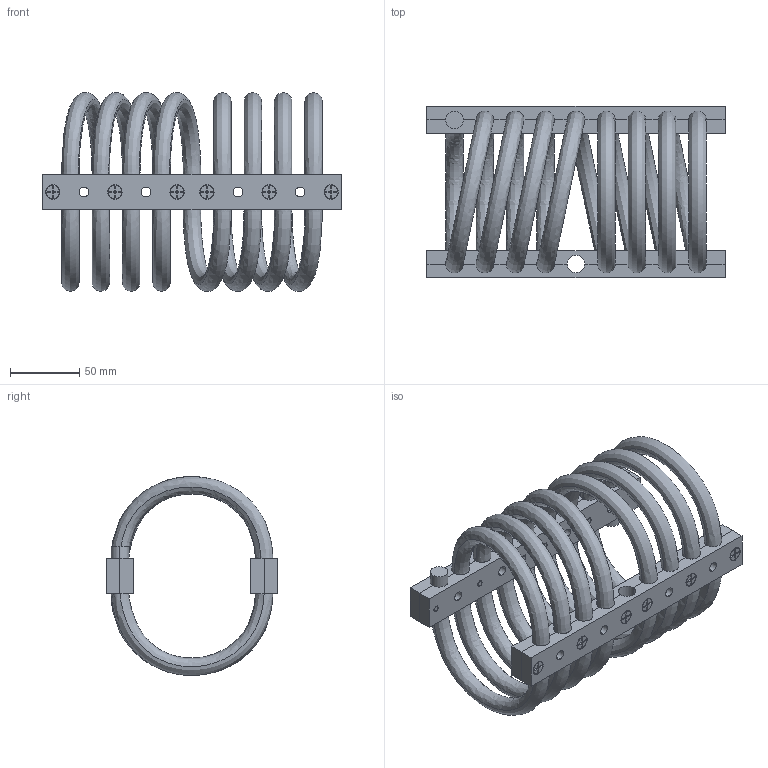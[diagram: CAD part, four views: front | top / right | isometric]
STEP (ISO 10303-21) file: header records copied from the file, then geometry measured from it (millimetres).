
FILE_DESCRIPTION (( 'STEP AP214' ), '1' );
FILE_NAME ('WR16-800-8DM.STEP', '2018-12-07T10:08:32', ( 'user' ), ( 'Microsoft' ), 'SwSTEP 2.0', 'SolidWorks 2016', '' );
FILE_SCHEMA (( 'AUTOMOTIVE_DESIGN' ));
Length unit declared in the file: millimetre
Products named in the file (1): WR16-800-8DM
Bounding box: 215.9 x 124 x 143.99 mm (x, y, z)
Volume: 571254.9 mm3; surface area: 212728.5 mm2
Topology: 34 solids, 34 shells, 664 faces, 1618 edges, 1050 vertices
Faces by surface type: plane 300, cylinder 258, cone 72, bspline 34
Entity records: 35292 total; most frequent: CARTESIAN_POINT 18432, DIRECTION 3244, ORIENTED_EDGE 3236, EDGE_CURVE 1618, AXIS2_PLACEMENT_3D 1159, VERTEX_POINT 1050, VECTOR 926, LINE 926
